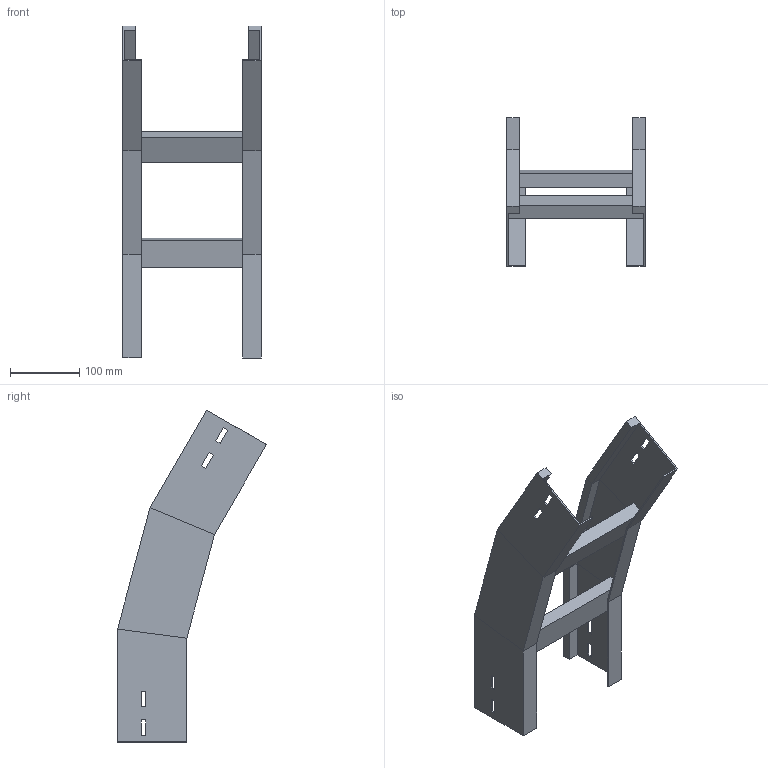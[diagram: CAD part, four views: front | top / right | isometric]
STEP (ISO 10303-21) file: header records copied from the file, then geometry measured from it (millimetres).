
FILE_DESCRIPTION (( 'STEP AP214' ), '1' );
FILE_NAME ('A2_35B3D200.step', '2025-02-21T14:46:08', ( '' ), ( '' ), 'SwSTEP 2.0', 'SolidWorks 2023', '' );
FILE_SCHEMA (( 'AUTOMOTIVE_DESIGN' ));
Length unit declared in the file: millimetre
Products named in the file (3): TRAVERSINO_200; LONGH.DISCESA_30°_H100_R300; A2_35B3D200
Assembly tree (5 placements, depth 2):
  A2_35B3D200
    LONGH.DISCESA_30°_H100_R300  x2
    TRAVERSINO_200  x3
Bounding box: 200 x 215.12 x 479.62 mm (x, y, z)
Volume: 905629.4 mm3; surface area: 350463.6 mm2
Topology: 5 solids, 5 shells, 102 faces, 244 edges, 152 vertices
Faces by surface type: plane 102
Entity records: 1480 total; most frequent: CARTESIAN_POINT 244, ORIENTED_EDGE 232, DIRECTION 228, LINE 116, EDGE_CURVE 116, VECTOR 116, VERTEX_POINT 72, AXIS2_PLACEMENT_3D 56
